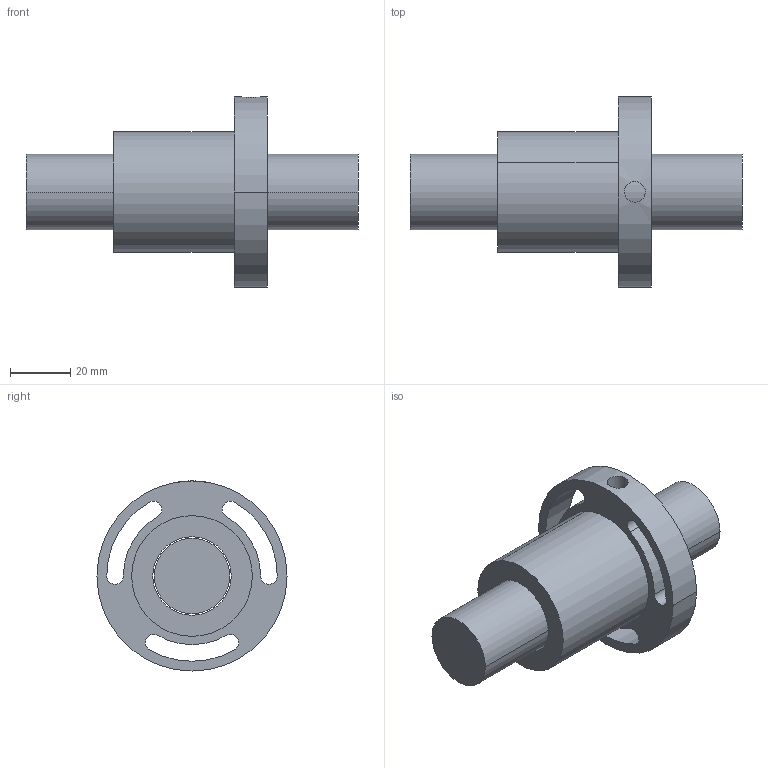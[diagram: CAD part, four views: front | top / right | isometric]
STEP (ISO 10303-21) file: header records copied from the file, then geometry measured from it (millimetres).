
FILE_DESCRIPTION(('CATIA V5 STEP Exchange'),'2;1');
FILE_NAME('C:\Users\aa\Documents\이댈\볼스크류\SFD-C\완성품\SFD2505C.stp','2019-07-25T08:51:46+00:00',('none'),('none'),'CATIA Version 5 Release 20 SP 7 (IN-10)','CATIA V5 STEP AP203','none');
FILE_SCHEMA(('CONFIG_CONTROL_DESIGN'));
Length unit declared in the file: millimetre
Products named in the file (1): SFD2505C
Bounding box: 110 x 63 x 63 mm (x, y, z)
Volume: 105145.5 mm3; surface area: 27801.5 mm2
Topology: 2 solids, 2 shells, 27 faces, 66 edges, 44 vertices
Faces by surface type: cylinder 22, plane 5
Entity records: 863 total; most frequent: CARTESIAN_POINT 189, ORIENTED_EDGE 132, DIRECTION 106, EDGE_CURVE 66, AXIS2_PLACEMENT_3D 63, VERTEX_POINT 44, CIRCLE 40, EDGE_LOOP 38
